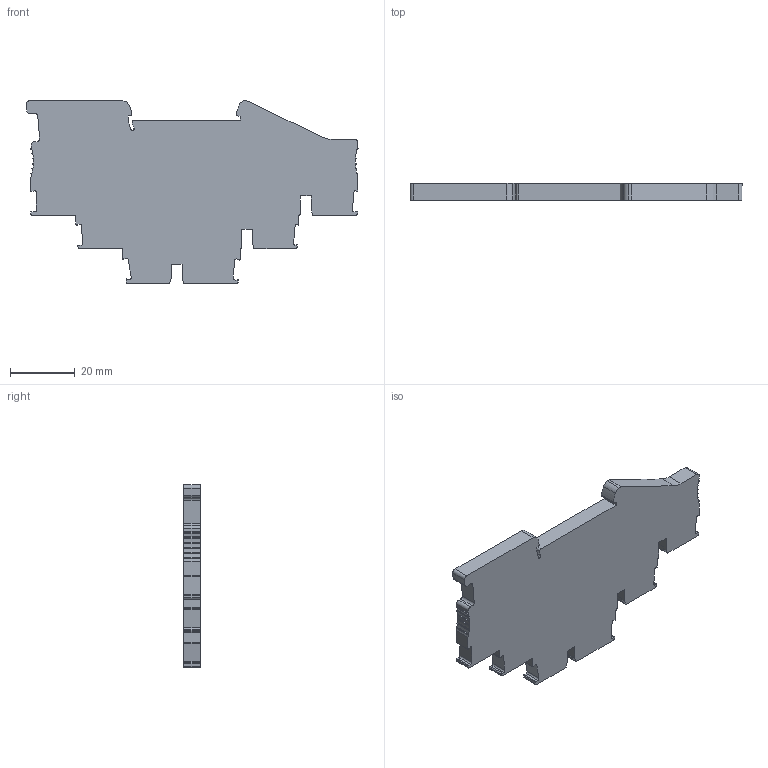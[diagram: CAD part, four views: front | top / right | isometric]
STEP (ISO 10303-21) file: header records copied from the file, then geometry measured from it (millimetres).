
FILE_DESCRIPTION(/* description */ (''),/* implementation_level */ '2;1');
FILE_NAME(/* name */ '',/* time_stamp */ '',/* author */ (''),/* organization */ (''),/* preprocessor_version */ '',/* originating_system */ '',/* authorisation */ '');
FILE_SCHEMA (('AUTOMOTIVE_DESIGN { 1 0 10303 214 3 1 1 }'));
Length unit declared in the file: millimetre
Products named in the file (1): CPT2.5-3L-3D
Bounding box: 102.78 x 5.18 x 56.63 mm (x, y, z)
Volume: 20715.3 mm3; surface area: 10425.6 mm2
Topology: 1 solids, 2 shells, 431 faces, 1257 edges, 838 vertices
Faces by surface type: plane 326, cylinder 104, bspline 1
Entity records: 14650 total; most frequent: CARTESIAN_POINT 2545, ORIENTED_EDGE 2514, DIRECTION 2332, EDGE_CURVE 1257, LINE 1038, VECTOR 1038, VERTEX_POINT 838, AXIS2_PLACEMENT_3D 647
